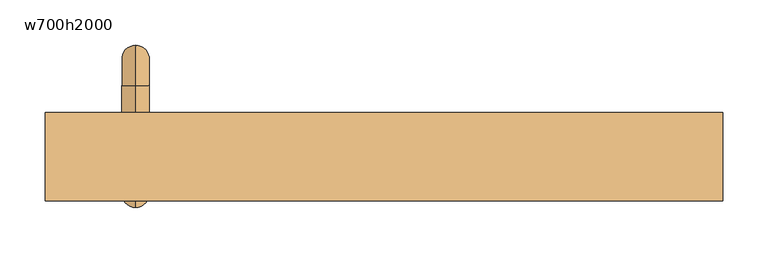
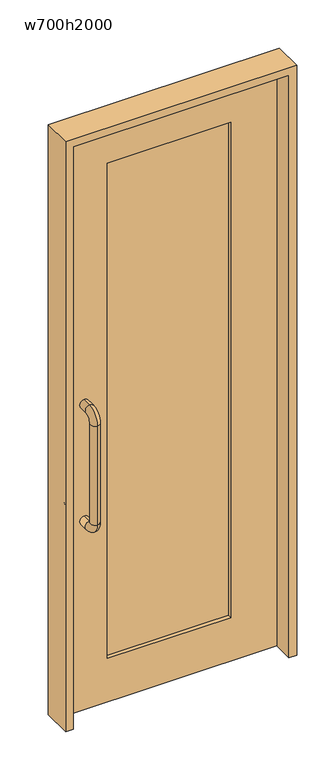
"""IFC4 building model written with IfcOpenShell, lengths in millimetres: door geometry, 片開き_ガラス四方框 : w700h2000."""

from ifc_helpers import new_model, si_unit, point, frame, origin, place, context, project, spatial, polyline, circle_curve, ellipse_curve, trimmed, outline, extrude, source, transform, mapped, element, save
from ifc_brep_helpers import cylinder_surface, revolved_surface, advanced_brep


def w700h2000_2dbcf825(model_context):
    return source(origin(), model_context, "Body", "SolidModel", [
        advanced_brep(
        [(-275.0, 93.75, 680.0), (-275.0, 78.75, 665.0), (-275.0, 78.75, 635.0), (-275.0, 123.75, 680.0), (-275.0, 123.75, 1020.0), (-275.0, 93.75, 1020.0), (-275.0, 78.75, 1035.0), (-275.0, 78.75, 1065.0), (-275.0, -11.25, 1065.0), (-275.0, -11.25, 1035.0), (-275.0, -26.25, 1020.0), (-275.0, -56.25, 1020.0), (-275.0, -56.25, 680.0), (-275.0, -26.25, 680.0), (-275.0, -11.25, 665.0), (-275.0, -11.25, 635.0)],
        [
            (0, 1, circle_curve(frame((-275.0, 78.75, 680.0), z_axis=(-1.0, 0.0, 0.0), x_axis=(0.0, 0.0, -1.0)), 15.0)),
            (1, 2, circle_curve(frame((-275.0, 78.75, 650.0), z_axis=(0.0, 1.0, 0.0), x_axis=(0.0, 0.0, 1.0)), 15.0)),
            (2, 3, circle_curve(frame((-275.0, 78.75, 680.0), z_axis=(1.0, 0.0, 0.0), x_axis=(0.0, 0.0, -1.0)), 45.0)),
            (3, 0, circle_curve(frame((-275.0, 108.75, 680.0), z_axis=(0.0, 0.0, -1.0), x_axis=(0.0, -1.0, 0.0)), 15.0)),
            (2, 1, circle_curve(frame((-275.0, 78.75, 650.0), z_axis=(0.0, 1.0, 0.0), x_axis=(0.0, 0.0, 1.0)), 15.0)),
            (0, 3, circle_curve(frame((-275.0, 108.75, 680.0), z_axis=(0.0, 0.0, -1.0), x_axis=(0.0, -1.0, 0.0)), 15.0)),
            (3, 4),
            (4, 5, circle_curve(frame((-275.0, 108.75, 1020.0), z_axis=(0.0, 0.0, -1.0), x_axis=(0.0, -1.0, 0.0)), 15.0)),
            (5, 0),
            (5, 4, circle_curve(frame((-275.0, 108.75, 1020.0), z_axis=(0.0, 0.0, -1.0), x_axis=(0.0, -1.0, 0.0)), 15.0)),
            (6, 5, circle_curve(frame((-275.0, 78.75, 1020.0), z_axis=(-1.0, 0.0, 0.0), x_axis=(0.0, 1.0, 0.0)), 15.0)),
            (4, 7, circle_curve(frame((-275.0, 78.75, 1020.0), z_axis=(1.0, 0.0, 0.0), x_axis=(0.0, 1.0, 0.0)), 45.0)),
            (7, 6, circle_curve(frame((-275.0, 78.75, 1050.0), z_axis=(0.0, 1.0, 0.0), x_axis=(0.0, 0.0, -1.0)), 15.0)),
            (6, 7, circle_curve(frame((-275.0, 78.75, 1050.0), z_axis=(0.0, 1.0, 0.0), x_axis=(0.0, 0.0, -1.0)), 15.0)),
            (7, 8),
            (8, 9, circle_curve(frame((-275.0, -11.25, 1050.0), z_axis=(0.0, 1.0, 0.0), x_axis=(0.0, 0.0, -1.0)), 15.0)),
            (9, 6),
            (9, 8, circle_curve(frame((-275.0, -11.25, 1050.0), z_axis=(0.0, 1.0, 0.0), x_axis=(0.0, 0.0, -1.0)), 15.0)),
            (10, 9, circle_curve(frame((-275.0, -11.25, 1020.0), z_axis=(-1.0, 0.0, 0.0), x_axis=(0.0, 0.0, 1.0)), 15.0)),
            (8, 11, circle_curve(frame((-275.0, -11.25, 1020.0), z_axis=(1.0, 0.0, 0.0), x_axis=(0.0, 0.0, 1.0)), 45.0)),
            (11, 10, circle_curve(frame((-275.0, -41.25, 1020.0), z_axis=(0.0, 0.0, 1.0), x_axis=(0.0, 1.0, 0.0)), 15.0)),
            (10, 11, circle_curve(frame((-275.0, -41.25, 1020.0), z_axis=(0.0, 0.0, 1.0), x_axis=(0.0, 1.0, 0.0)), 15.0)),
            (11, 12),
            (12, 13, circle_curve(frame((-275.0, -41.25, 680.0), z_axis=(0.0, 0.0, 1.0), x_axis=(0.0, 1.0, 0.0)), 15.0)),
            (13, 10),
            (13, 12, circle_curve(frame((-275.0, -41.25, 680.0), z_axis=(0.0, 0.0, 1.0), x_axis=(0.0, 1.0, 0.0)), 15.0)),
            (14, 13, circle_curve(frame((-275.0, -11.25, 680.0), z_axis=(-1.0, 0.0, 0.0), x_axis=(0.0, -1.0, 0.0)), 15.0)),
            (12, 15, circle_curve(frame((-275.0, -11.25, 680.0), z_axis=(1.0, 0.0, 0.0), x_axis=(0.0, -1.0, 0.0)), 45.0)),
            (15, 14, circle_curve(frame((-275.0, -11.25, 650.0), z_axis=(0.0, -1.0, 0.0), x_axis=(0.0, 0.0, 1.0)), 15.0)),
            (14, 15, circle_curve(frame((-275.0, -11.25, 650.0), z_axis=(0.0, -1.0, 0.0), x_axis=(0.0, 0.0, 1.0)), 15.0)),
            (15, 2),
            (1, 14),
        ],
        [
            revolved_surface(trimmed(ellipse_curve(frame((-275.0, 78.75, 650.0), z_axis=(0.0, -1.0, 0.0), x_axis=(0.0, 0.0, 1.0)), 15.0, 15.0), [point((-275.0, 78.75, 635.0))], [point((-275.0, 78.75, 665.0))], True, "CARTESIAN"), (-275.0, 78.75, 680.0), (1.0, 0.0, 0.0)),
            revolved_surface(trimmed(ellipse_curve(frame((-275.0, 78.75, 650.0), z_axis=(0.0, -1.0, 0.0), x_axis=(0.0, 0.0, 1.0)), 15.0, 15.0), [point((-275.0, 78.75, 665.0))], [point((-275.0, 78.75, 635.0))], True, "CARTESIAN"), (-275.0, 78.75, 680.0), (1.0, 0.0, 0.0)),
            cylinder_surface(frame((-275.0, 108.75, 680.0), z_axis=(0.0, 0.0, -1.0), x_axis=(0.0, -1.0, 0.0)), 15.0),
            revolved_surface(trimmed(ellipse_curve(frame((-275.0, 108.75, 1020.0), z_axis=(0.0, 0.0, -1.0), x_axis=(0.0, -1.0, 0.0)), 15.0, 15.0), [point((-275.0, 123.75, 1020.0))], [point((-275.0, 93.75, 1020.0))], True, "CARTESIAN"), (-275.0, 78.75, 1020.0), (1.0, 0.0, 0.0)),
            revolved_surface(trimmed(ellipse_curve(frame((-275.0, 108.75, 1020.0), z_axis=(0.0, 0.0, -1.0), x_axis=(0.0, -1.0, 0.0)), 15.0, 15.0), [point((-275.0, 93.75, 1020.0))], [point((-275.0, 123.75, 1020.0))], True, "CARTESIAN"), (-275.0, 78.75, 1020.0), (1.0, 0.0, 0.0)),
            cylinder_surface(frame((-275.0, 78.75, 1050.0), z_axis=(0.0, 1.0, 0.0), x_axis=(0.0, 0.0, -1.0)), 15.0),
            revolved_surface(trimmed(ellipse_curve(frame((-275.0, -11.25, 1050.0), z_axis=(0.0, 1.0, 0.0), x_axis=(0.0, 0.0, -1.0)), 15.0, 15.0), [point((-275.0, -11.25, 1065.0))], [point((-275.0, -11.25, 1035.0))], True, "CARTESIAN"), (-275.0, -11.25, 1020.0), (1.0, 0.0, 0.0)),
            revolved_surface(trimmed(ellipse_curve(frame((-275.0, -11.25, 1050.0), z_axis=(0.0, 1.0, 0.0), x_axis=(0.0, 0.0, -1.0)), 15.0, 15.0), [point((-275.0, -11.25, 1035.0))], [point((-275.0, -11.25, 1065.0))], True, "CARTESIAN"), (-275.0, -11.25, 1020.0), (1.0, 0.0, 0.0)),
            cylinder_surface(frame((-275.0, -41.25, 1020.0), z_axis=(0.0, 0.0, 1.0), x_axis=(0.0, 1.0, 0.0)), 15.0),
            revolved_surface(trimmed(ellipse_curve(frame((-275.0, -41.25, 680.0), z_axis=(0.0, 0.0, 1.0), x_axis=(0.0, 1.0, 0.0)), 15.0, 15.0), [point((-275.0, -56.25, 680.0))], [point((-275.0, -26.25, 680.0))], True, "CARTESIAN"), (-275.0, -11.25, 680.0), (1.0, 0.0, 0.0)),
            revolved_surface(trimmed(ellipse_curve(frame((-275.0, -41.25, 680.0), z_axis=(0.0, 0.0, 1.0), x_axis=(0.0, 1.0, 0.0)), 15.0, 15.0), [point((-275.0, -26.25, 680.0))], [point((-275.0, -56.25, 680.0))], True, "CARTESIAN"), (-275.0, -11.25, 680.0), (1.0, 0.0, 0.0)),
            cylinder_surface(frame((-275.0, -11.25, 650.0), z_axis=(0.0, -1.0, 0.0), x_axis=(0.0, 0.0, 1.0)), 15.0),
        ],
        [
            (0, [[1, 2, 3, 4]]),
            (1, [[-3, 5, -1, 6]]),
            (2, [[-4, 7, 8, 9]]),
            (2, [[-6, -9, 10, -7]]),
            (3, [[11, -8, 12, 13]]),
            (4, [[-12, -10, -11, 14]]),
            (5, [[-13, 15, 16, 17]]),
            (5, [[-14, -17, 18, -15]]),
            (6, [[19, -16, 20, 21]]),
            (7, [[-20, -18, -19, 22]]),
            (8, [[-21, 23, 24, 25]]),
            (8, [[-22, -25, 26, -23]]),
            (9, [[27, -24, 28, 29]]),
            (10, [[-28, -26, -27, 30]]),
            (11, [[-29, 31, -2, 32]]),
            (11, [[-30, -32, -5, -31]]),
        ],
    ),
        extrude(outline(polyline([(2000.0, 350.0), (2000.0, -350.0), (0.0, -350.0), (0.0, 350.0), (2000.0, 350.0)]), holes=[polyline([(1850.0, 200.0), (150.0, 200.0), (150.0, -200.0), (1850.0, -200.0), (1850.0, 200.0)])]), frame((0.0, 18.75, 0.0), z_axis=(0.0, 1.0, 0.0), x_axis=(0.0, 0.0, 1.0)), (0.0, 0.0, 1.0), 30.0),
        extrude(outline(polyline([(2025.0, -375.0), (0.0, -375.0), (0.0, -350.0), (2000.0, -350.0), (2000.0, 350.0), (0.0, 350.0), (0.0, 375.0), (2025.0, 375.0), (2025.0, -375.0)])), frame((0.0, -48.75, 0.0), z_axis=(0.0, 1.0, 0.0), x_axis=(0.0, 0.0, 1.0)), (0.0, 0.0, 1.0), 97.5),
        extrude(outline(polyline([(200.0, 31.25), (-200.0, 31.25), (-200.0, 36.25), (200.0, 36.25), (200.0, 31.25)])), frame((0.0, 0.0, 150.0), z_axis=(0.0, 0.0, 1.0), x_axis=(1.0, 0.0, 0.0)), (0.0, 0.0, 1.0), 1700.0),
    ])


if __name__ == "__main__":
    model = new_model("IFC4")
    model_context = context("Model", 3, world=origin())
    ifc_project = project(units=[si_unit("LENGTHUNIT", "METRE", prefix="MILLI")], contexts=[model_context])
    site = spatial("IfcSite", under=ifc_project)
    building = spatial("IfcBuilding", under=site)
    placement = place(None, origin())
    w700h2000_shape = w700h2000_2dbcf825(model_context)
    element("IfcDoor", 1, ObjectType="片開き_ガラス四方框 : w700h2000", at=placement, inside=building, context=model_context, shape_type="MappedRepresentation", body=[
        mapped(w700h2000_shape, transform((0.0, 0.0, 0.0), x_axis=(1.0, 0.0, 0.0), y_axis=(0.0, 1.0, 0.0), z_axis=(0.0, 0.0, 1.0))),
    ])
    save(model, "model.ifc")
